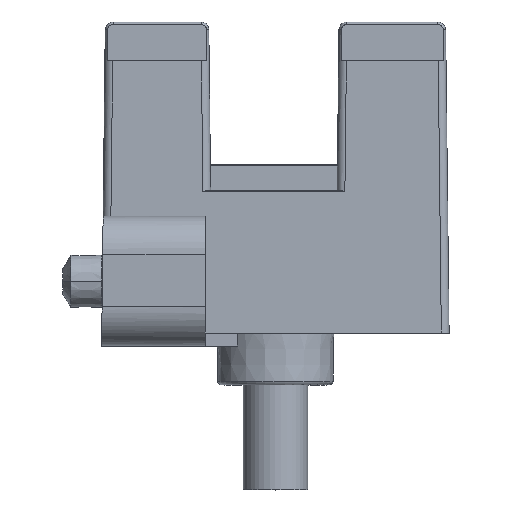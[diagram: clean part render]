
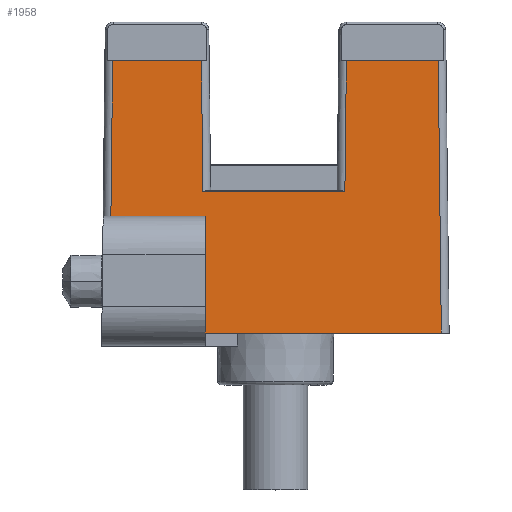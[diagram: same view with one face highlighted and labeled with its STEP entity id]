
A CAD part, top view. The second image highlights one B-rep face of the part: STEP entity #1958.
In plain terms, the highlighted planar face has unit normal (0, 0.011, 1).
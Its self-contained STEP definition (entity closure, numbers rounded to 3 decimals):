
#78=DIRECTION('',(-1.,0.,0.));
#79=VECTOR('',#78,3.424);
#80=CARTESIAN_POINT('',(-21.257,10.5,2.881));
#81=LINE('',#80,#79);
#87=DIRECTION('',(0.011,-1.,0.011));
#88=VECTOR('',#87,10.501);
#89=CARTESIAN_POINT('',(-12.119,10.5,2.881));
#90=LINE('',#89,#88);
#91=DIRECTION('',(-1.,0.,0.));
#92=VECTOR('',#91,3.649);
#93=CARTESIAN_POINT('',(-21.1,4.5,2.949));
#94=LINE('',#93,#92);
#95=DIRECTION('',(0.011,1.,-0.011));
#96=VECTOR('',#95,6.001);
#97=CARTESIAN_POINT('',(-24.749,4.5,2.949));
#98=LINE('',#97,#96);
#99=DIRECTION('',(0.011,-1.,0.011));
#100=VECTOR('',#99,5.05);
#101=CARTESIAN_POINT('',(-21.257,10.5,2.881));
#102=LINE('',#101,#100);
#103=DIRECTION('',(-0.011,-1.,0.011));
#104=VECTOR('',#103,5.05);
#105=CARTESIAN_POINT('',(-15.663,10.5,2.881));
#106=LINE('',#105,#104);
#107=DIRECTION('',(-1.,0.,0.));
#108=VECTOR('',#107,3.544);
#109=CARTESIAN_POINT('',(-12.119,10.5,2.881));
#110=LINE('',#109,#108);
#114=CARTESIAN_POINT('',(-12.119,10.5,2.881));
#116=CARTESIAN_POINT('',(-15.663,10.5,2.881));
#145=DIRECTION('',(-1.,0.,0.));
#146=VECTOR('',#145,5.479);
#147=CARTESIAN_POINT('',(-15.721,5.451,2.938));
#148=LINE('',#147,#146);
#632=DIRECTION('',(0.,-1.,0.011));
#633=VECTOR('',#632,4.5);
#634=CARTESIAN_POINT('',(-21.1,4.5,2.949));
#635=LINE('',#634,#633);
#670=DIRECTION('',(1.,0.,0.));
#671=VECTOR('',#670,9.1);
#672=CARTESIAN_POINT('',(-21.1,0.,3.));
#673=LINE('',#672,#671);
#1525=CARTESIAN_POINT('',(-21.1,0.,3.));
#1526=VERTEX_POINT('',#1525);
#1527=CARTESIAN_POINT('',(-12.,0.,3.));
#1528=VERTEX_POINT('',#1527);
#1582=VERTEX_POINT('',#114);
#1583=CARTESIAN_POINT('',(-21.257,10.5,2.881));
#1584=CARTESIAN_POINT('',(-24.681,10.5,2.881));
#1585=VERTEX_POINT('',#1583);
#1586=VERTEX_POINT('',#1584);
#1587=CARTESIAN_POINT('',(-21.199,5.451,2.938));
#1588=VERTEX_POINT('',#1587);
#1589=CARTESIAN_POINT('',(-21.1,4.5,2.949));
#1590=VERTEX_POINT('',#1589);
#1591=CARTESIAN_POINT('',(-24.749,4.5,2.949));
#1592=VERTEX_POINT('',#1591);
#1767=CARTESIAN_POINT('',(-15.721,5.451,2.938));
#1768=VERTEX_POINT('',#1767);
#1785=VERTEX_POINT('',#116);
#1933=CARTESIAN_POINT('',(-10.439,0.,3.));
#1934=DIRECTION('',(0.,-0.011,-1.));
#1935=DIRECTION('',(1.,0.,0.));
#1936=AXIS2_PLACEMENT_3D('',#1933,#1934,#1935);
#1937=PLANE('',#1936);
#1939=ORIENTED_EDGE('',*,*,#1938,.F.);
#1941=ORIENTED_EDGE('',*,*,#1940,.T.);
#1943=ORIENTED_EDGE('',*,*,#1942,.F.);
#1945=ORIENTED_EDGE('',*,*,#1944,.F.);
#1947=ORIENTED_EDGE('',*,*,#1946,.T.);
#1948=ORIENTED_EDGE('',*,*,#1908,.T.);
#1949=ORIENTED_EDGE('',*,*,#1924,.F.);
#1951=ORIENTED_EDGE('',*,*,#1950,.T.);
#1953=ORIENTED_EDGE('',*,*,#1952,.F.);
#1955=ORIENTED_EDGE('',*,*,#1954,.F.);
#1956=EDGE_LOOP('',(#1939,#1941,#1943,#1945,#1947,#1948,#1949,#1951,#1953,
#1955));
#1957=FACE_OUTER_BOUND('',#1956,.F.);
#1908=EDGE_CURVE('',#1592,#1586,#98,.T.);
#1924=EDGE_CURVE('',#1585,#1586,#81,.T.);
#1938=EDGE_CURVE('',#1582,#1785,#110,.T.);
#1940=EDGE_CURVE('',#1582,#1528,#90,.T.);
#1942=EDGE_CURVE('',#1526,#1528,#673,.T.);
#1944=EDGE_CURVE('',#1590,#1526,#635,.T.);
#1946=EDGE_CURVE('',#1590,#1592,#94,.T.);
#1950=EDGE_CURVE('',#1585,#1588,#102,.T.);
#1952=EDGE_CURVE('',#1768,#1588,#148,.T.);
#1954=EDGE_CURVE('',#1785,#1768,#106,.T.);
#1958=ADVANCED_FACE('',(#1957),#1937,.F.);
